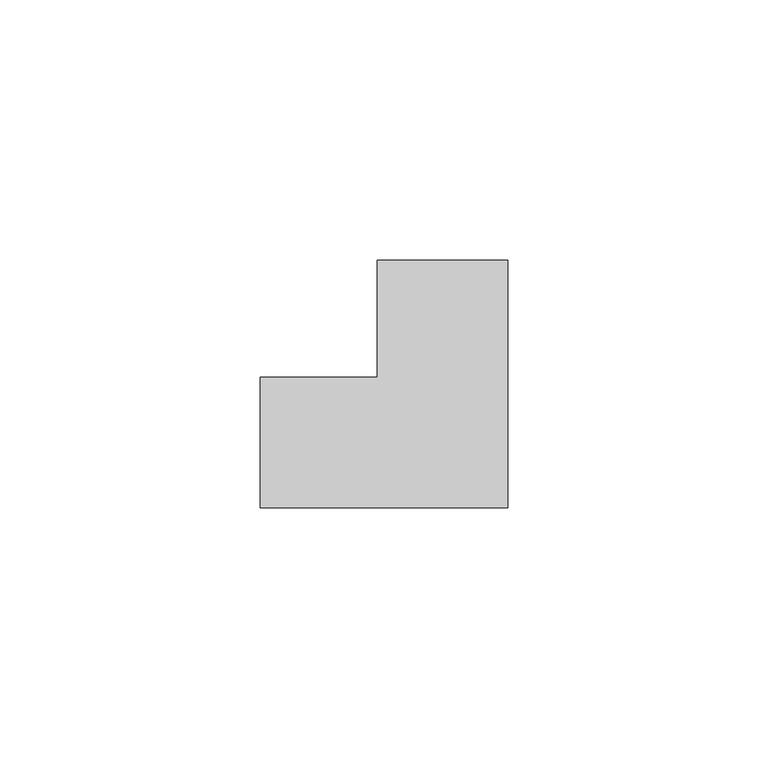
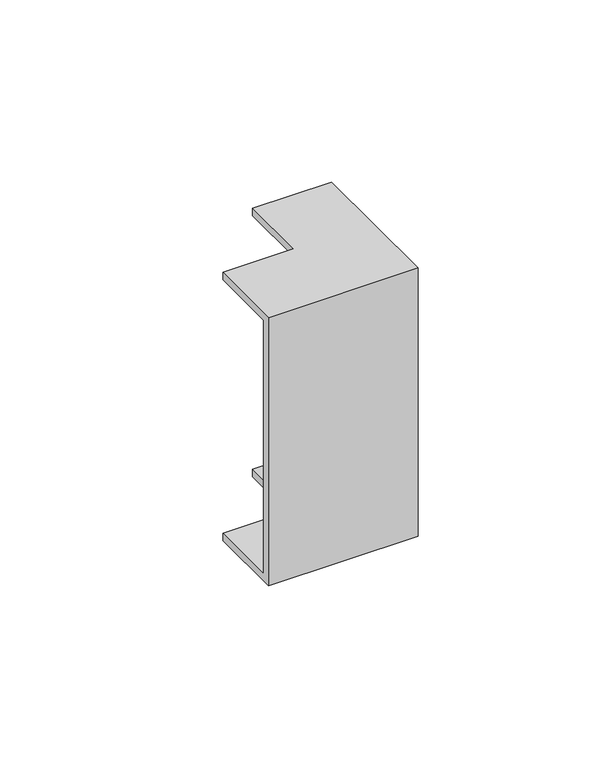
"""IFC4 building model written with IfcOpenShell, lengths in millimetres: cable carrier fitting geometry, КНС_УголВнутренний_ILF_DKC : Белый."""

from ifc_helpers import new_model, si_unit, origin, place, context, project, spatial, faceted_brep, source, transform, mapped, element, save


def cable_carrier_fitting_6db34369(model_context):
    return source(origin(), model_context, "Body", "Brep", [
        faceted_brep([(-35.0, -12.5, 45.0), (-35.0, 12.5, 45.0), (-35.0, 12.5, 42.5), (-35.0, -10.0, 42.5), (-35.0, -10.0, -42.5), (-35.0, 12.5, -42.5), (-35.0, 12.5, -45.0), (-35.0, -12.5, -45.0), (12.5, 35.0, 45.0), (12.5, 35.0, -45.0), (-12.5, 35.0, -45.0), (-12.5, 35.0, -42.5), (10.0, 35.0, -42.5), (10.0, 35.0, 42.5), (-12.5, 35.0, 42.5), (-12.5, 35.0, 45.0), (12.5, -12.5, 45.0), (-12.5, 12.5, 45.0), (-12.5, 12.5, 42.5), (10.0, -10.0, 42.5), (10.0, -10.0, -42.5), (-12.5, 12.5, -42.5), (-12.5, 12.5, -45.0), (12.5, -12.5, -45.0)], [[[0, 1, 2, 3, 4, 5, 6, 7]], [[8, 9, 10, 11, 12, 13, 14, 15]], [[1, 0, 16, 8, 15, 17]], [[2, 1, 17, 18]], [[3, 2, 18, 14, 13, 19]], [[4, 3, 19, 20]], [[5, 4, 20, 12, 11, 21]], [[6, 5, 21, 22]], [[7, 6, 22, 10, 9, 23]], [[0, 7, 23, 16]], [[18, 17, 15, 14]], [[20, 19, 13, 12]], [[22, 21, 11, 10]], [[16, 23, 9, 8]]]),
    ])


if __name__ == "__main__":
    model = new_model("IFC4")
    model_context = context("Model", 3, world=origin())
    ifc_project = project(units=[si_unit("LENGTHUNIT", "METRE", prefix="MILLI")], contexts=[model_context])
    site = spatial("IfcSite", under=ifc_project)
    building = spatial("IfcBuilding", under=site)
    placement = place(None, origin())
    cable_carrier_fitting_shape = cable_carrier_fitting_6db34369(model_context)
    element("IfcCableCarrierFitting", 1, ObjectType="КНС_УголВнутренний_ILF_DKC : Белый", at=placement, inside=building, context=model_context, shape_type="MappedRepresentation", body=[
        mapped(cable_carrier_fitting_shape, transform((0.0, 0.0, 0.0), x_axis=(1.0, 0.0, 0.0), y_axis=(0.0, 1.0, 0.0), z_axis=(0.0, 0.0, 1.0))),
    ])
    save(model, "model.ifc")
